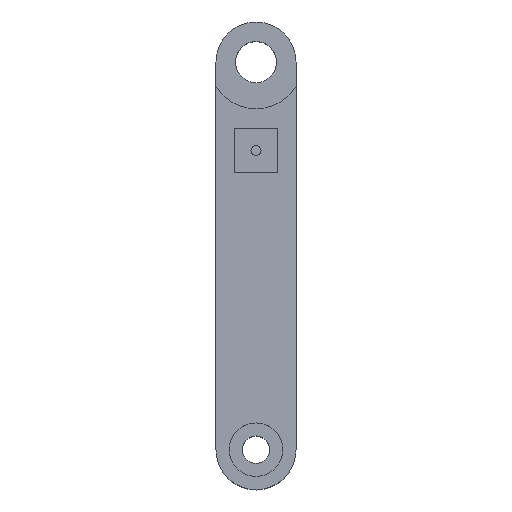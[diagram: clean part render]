
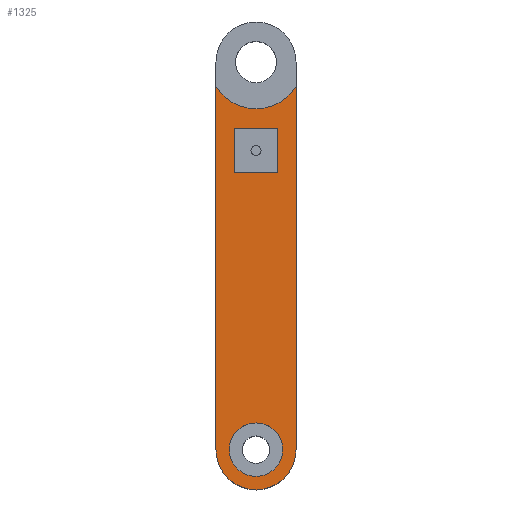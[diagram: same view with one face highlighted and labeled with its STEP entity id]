
A CAD part, top view. The second image highlights one B-rep face of the part: STEP entity #1325.
In plain terms, the highlighted planar face has unit normal (0, 0, 1).
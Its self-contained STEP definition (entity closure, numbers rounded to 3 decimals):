
#25 = VERTEX_POINT ( 'NONE', #931 ) ;
#30 = DIRECTION ( 'NONE',  ( 1., 0., 0. ) ) ;
#61 = LINE ( 'NONE', #1107, #232 ) ;
#81 = VERTEX_POINT ( 'NONE', #1286 ) ;
#84 = ORIENTED_EDGE ( 'NONE', *, *, #1414, .T. ) ;
#140 = VECTOR ( 'NONE', #1328, 1000. ) ;
#160 = AXIS2_PLACEMENT_3D ( 'NONE', #1696, #1852, #1546 ) ;
#175 = VERTEX_POINT ( 'NONE', #391 ) ;
#181 = DIRECTION ( 'NONE',  ( 0., -1., 0. ) ) ;
#183 = CARTESIAN_POINT ( 'NONE',  ( 6., 0., -1. ) ) ;
#202 = EDGE_CURVE ( 'NONE', #175, #1200, #1074, .T. ) ;
#207 = CARTESIAN_POINT ( 'NONE',  ( 0., 54.394, -1. ) ) ;
#232 = VECTOR ( 'NONE', #969, 1000. ) ;
#242 = DIRECTION ( 'NONE',  ( 0., 0., 1. ) ) ;
#248 = EDGE_CURVE ( 'NONE', #1734, #866, #1102, .T. ) ;
#265 = PLANE ( 'NONE',  #1335 ) ;
#302 = CARTESIAN_POINT ( 'NONE',  ( 9.25, 48., -1. ) ) ;
#361 = CARTESIAN_POINT ( 'NONE',  ( 2.75, 48., -1. ) ) ;
#391 = CARTESIAN_POINT ( 'NONE',  ( 12., 54.394, -1. ) ) ;
#396 = CARTESIAN_POINT ( 'NONE',  ( 2.75, 48., -1. ) ) ;
#430 = DIRECTION ( 'NONE',  ( 1., 0., 0. ) ) ;
#502 = ORIENTED_EDGE ( 'NONE', *, *, #248, .T. ) ;
#556 = CARTESIAN_POINT ( 'NONE',  ( 2.75, 48., -1. ) ) ;
#562 = ORIENTED_EDGE ( 'NONE', *, *, #1953, .T. ) ;
#574 = VECTOR ( 'NONE', #30, 1000. ) ;
#623 = DIRECTION ( 'NONE',  ( 0., 0., 1. ) ) ;
#700 = VECTOR ( 'NONE', #1847, 1000. ) ;
#710 = ORIENTED_EDGE ( 'NONE', *, *, #1630, .T. ) ;
#719 = EDGE_LOOP ( 'NONE', ( #988 ) ) ;
#738 = CARTESIAN_POINT ( 'NONE',  ( 6., 58., -1. ) ) ;
#756 = CARTESIAN_POINT ( 'NONE',  ( 0., 54.394, -1. ) ) ;
#773 = VERTEX_POINT ( 'NONE', #1654 ) ;
#785 = CARTESIAN_POINT ( 'NONE',  ( 0., 0., -1. ) ) ;
#825 = CIRCLE ( 'NONE', #1592, 4. ) ;
#846 = CARTESIAN_POINT ( 'NONE',  ( 6., 0., -1. ) ) ;
#865 = FACE_OUTER_BOUND ( 'NONE', #1315, .T. ) ;
#866 = VERTEX_POINT ( 'NONE', #1486 ) ;
#929 = EDGE_LOOP ( 'NONE', ( #1435, #502, #562, #1276 ) ) ;
#931 = CARTESIAN_POINT ( 'NONE',  ( 10., 0., -1. ) ) ;
#933 = DIRECTION ( 'NONE',  ( 1., 0., 0. ) ) ;
#964 = CARTESIAN_POINT ( 'NONE',  ( 9.25, 41.5, -1. ) ) ;
#969 = DIRECTION ( 'NONE',  ( -1., 0., 0. ) ) ;
#988 = ORIENTED_EDGE ( 'NONE', *, *, #1670, .F. ) ;
#1000 = FACE_BOUND ( 'NONE', #719, .T. ) ;
#1049 = LINE ( 'NONE', #756, #1366 ) ;
#1074 = CIRCLE ( 'NONE', #160, 7. ) ;
#1102 = LINE ( 'NONE', #361, #574 ) ;
#1107 = CARTESIAN_POINT ( 'NONE',  ( 2.75, 41.5, -1. ) ) ;
#1144 = VERTEX_POINT ( 'NONE', #964 ) ;
#1200 = VERTEX_POINT ( 'NONE', #207 ) ;
#1235 = LINE ( 'NONE', #1702, #700 ) ;
#1276 = ORIENTED_EDGE ( 'NONE', *, *, #1576, .T. ) ;
#1286 = CARTESIAN_POINT ( 'NONE',  ( 2.75, 41.5, -1. ) ) ;
#1315 = EDGE_LOOP ( 'NONE', ( #1411, #1348, #84, #710 ) ) ;
#1322 = EDGE_CURVE ( 'NONE', #81, #1734, #1752, .T. ) ;
#1325 = ADVANCED_FACE ( 'NONE', ( #1000, #865, #1789 ), #265, .T. ) ;
#1328 = DIRECTION ( 'NONE',  ( 0., 1., 0. ) ) ;
#1335 = AXIS2_PLACEMENT_3D ( 'NONE', #738, #1469, #430 ) ;
#1348 = ORIENTED_EDGE ( 'NONE', *, *, #1889, .T. ) ;
#1366 = VECTOR ( 'NONE', #1495, 1000. ) ;
#1411 = ORIENTED_EDGE ( 'NONE', *, *, #202, .T. ) ;
#1414 = EDGE_CURVE ( 'NONE', #1611, #773, #1651, .T. ) ;
#1435 = ORIENTED_EDGE ( 'NONE', *, *, #1322, .T. ) ;
#1469 = DIRECTION ( 'NONE',  ( 0., 0., 1. ) ) ;
#1486 = CARTESIAN_POINT ( 'NONE',  ( 9.25, 48., -1. ) ) ;
#1495 = DIRECTION ( 'NONE',  ( 0., -1., 0. ) ) ;
#1546 = DIRECTION ( 'NONE',  ( 1., 0., 0. ) ) ;
#1576 = EDGE_CURVE ( 'NONE', #1144, #81, #61, .T. ) ;
#1592 = AXIS2_PLACEMENT_3D ( 'NONE', #846, #242, #1901 ) ;
#1611 = VERTEX_POINT ( 'NONE', #785 ) ;
#1630 = EDGE_CURVE ( 'NONE', #773, #175, #1235, .T. ) ;
#1651 = CIRCLE ( 'NONE', #1845, 6. ) ;
#1654 = CARTESIAN_POINT ( 'NONE',  ( 12., 0., -1. ) ) ;
#1670 = EDGE_CURVE ( 'NONE', #25, #25, #825, .T. ) ;
#1682 = LINE ( 'NONE', #302, #1685 ) ;
#1685 = VECTOR ( 'NONE', #181, 1000. ) ;
#1696 = CARTESIAN_POINT ( 'NONE',  ( 6., 58., -1. ) ) ;
#1702 = CARTESIAN_POINT ( 'NONE',  ( 12., 54.394, -1. ) ) ;
#1734 = VERTEX_POINT ( 'NONE', #556 ) ;
#1752 = LINE ( 'NONE', #396, #140 ) ;
#1789 = FACE_BOUND ( 'NONE', #929, .T. ) ;
#1845 = AXIS2_PLACEMENT_3D ( 'NONE', #183, #623, #933 ) ;
#1847 = DIRECTION ( 'NONE',  ( 0., 1., 0. ) ) ;
#1852 = DIRECTION ( 'NONE',  ( 0., 0., -1. ) ) ;
#1889 = EDGE_CURVE ( 'NONE', #1200, #1611, #1049, .T. ) ;
#1901 = DIRECTION ( 'NONE',  ( 1., 0., 0. ) ) ;
#1953 = EDGE_CURVE ( 'NONE', #866, #1144, #1682, .T. ) ;
